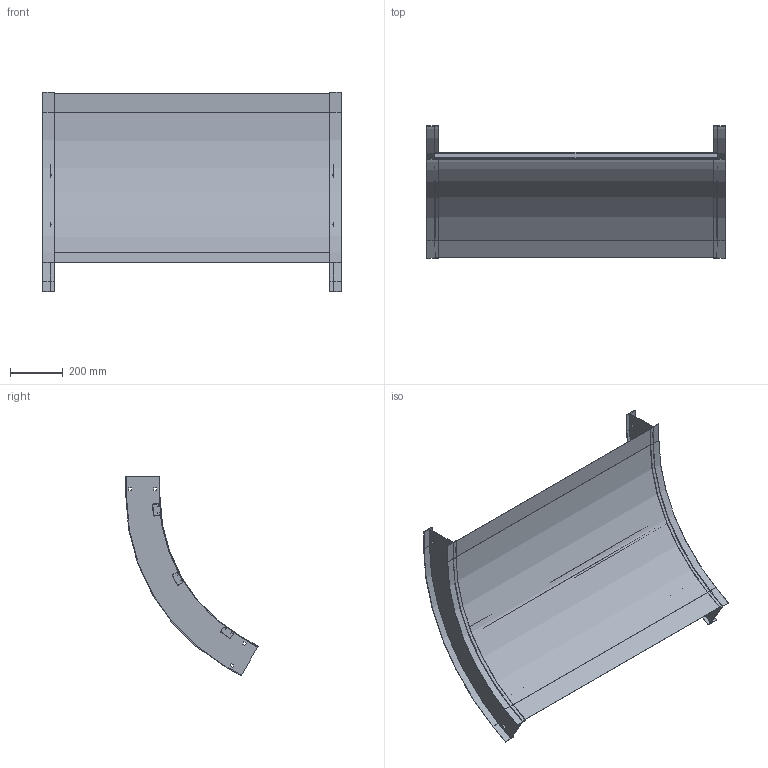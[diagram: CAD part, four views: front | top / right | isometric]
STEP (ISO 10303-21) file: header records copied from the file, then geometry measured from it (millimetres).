
FILE_DESCRIPTION((''),'2;1');
FILE_NAME('AHF542SVO6024_ASM','2010-02-02T',('erouzier'),(''),'PRO/ENGINEER BY PARAMETRIC TECHNOLOGY CORPORATION, 2008510','PRO/ENGINEER BY PARAMETRIC TECHNOLOGY CORPORATION, 2008510','');
FILE_SCHEMA(('CONFIG_CONTROL_DESIGN'));
Length unit declared in the file: inch
Products named in the file (4): CDS001658_5_60_24; CDS002159L42; ED04591_60_24_42; AHF542SVO6024_ASM
Assembly tree (6 placements, depth 2):
  AHF542SVO6024_ASM
    CDS001658_5_60_24  x2
    CDS002159L42  x3
    ED04591_60_24_42
Bounding box: 1128.01 x 499.82 x 753.97 mm (x, y, z)
Volume: 2060348.8 mm3; surface area: 3177045.4 mm2
Topology: 6 solids, 6 shells, 188 faces, 520 edges, 344 vertices
Faces by surface type: plane 141, cylinder 47
Entity records: 2826 total; most frequent: CARTESIAN_POINT 480, ORIENTED_EDGE 464, DIRECTION 462, EDGE_CURVE 232, VECTOR 194, LINE 194, VERTEX_POINT 152, AXIS2_PLACEMENT_3D 134
